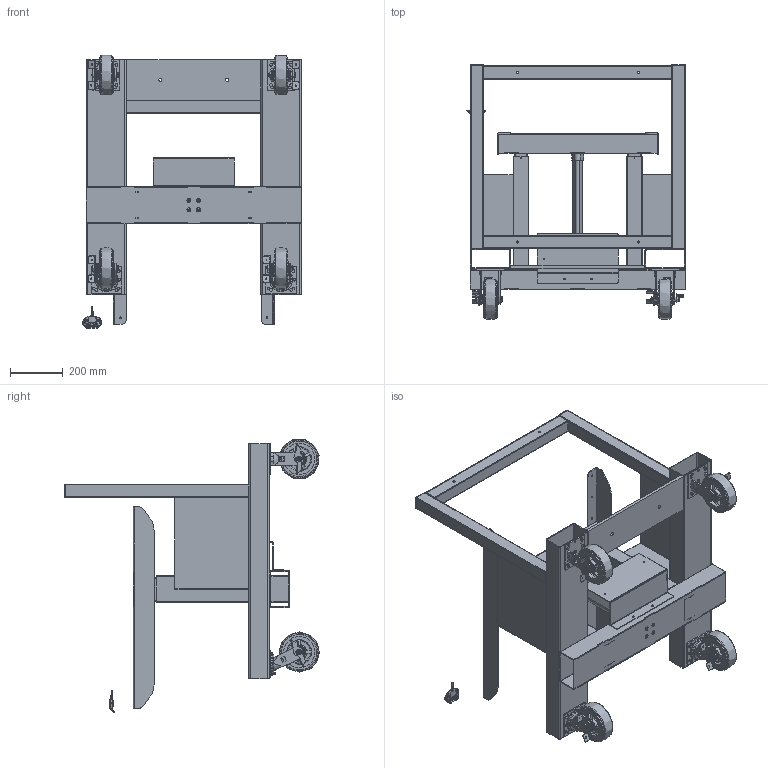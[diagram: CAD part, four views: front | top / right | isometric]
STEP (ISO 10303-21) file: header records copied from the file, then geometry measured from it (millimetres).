
FILE_DESCRIPTION (( 'STEP AP214' ), '1' );
FILE_NAME ('MB800 24INX30IN.STEP', '2020-01-22T14:14:09', ( '' ), ( '' ), 'SwSTEP 2.0', 'SolidWorks 2019', '' );
FILE_SCHEMA (( 'AUTOMOTIVE_DESIGN' ));
Length unit declared in the file: millimetre
Products named in the file (2): MB800 24INX30IN
Bounding box: 825.84 x 962.82 x 1032.45 mm (x, y, z)
Surface area: 7329685.8 mm2 (no closed solid volume)
Topology: 0 solids, 97 shells, 3365 faces, 8957 edges, 5900 vertices
Faces by surface type: plane 1864, cylinder 712, bspline 476, cone 261, torus 46, sphere 6
Full cylindrical faces by diameter (mm): 1.575 x6, 1.778 x6, 3 x2, 3.3 x4, 4 x2, 4.039 x4, 4.2 x4, 4.252 x6, 4.5 x1, 4.521 x6, 4.6 x1, 4.762 x2, 4.763 x4, 5 x14, 6 x20, 6.4 x4, 6.6 x2, 6.8 x7, 7 x1, 7.117 x6, 7.5 x1, 7.937 x8, 8 x2, 9 x8, 9.7 x2, 10.5 x1, 12 x18, 12.5 x1, 12.7 x12, 12.827 x12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
Entity records: 180832 total; most frequent: CARTESIAN_POINT 66778, ORIENTED_EDGE 16162, DIRECTION 13791, EDGE_CURVE 8167, VERTEX_POINT 5662, AXIS2_PLACEMENT_3D 4670, EDGE_LOOP 4497, VECTOR 4451
